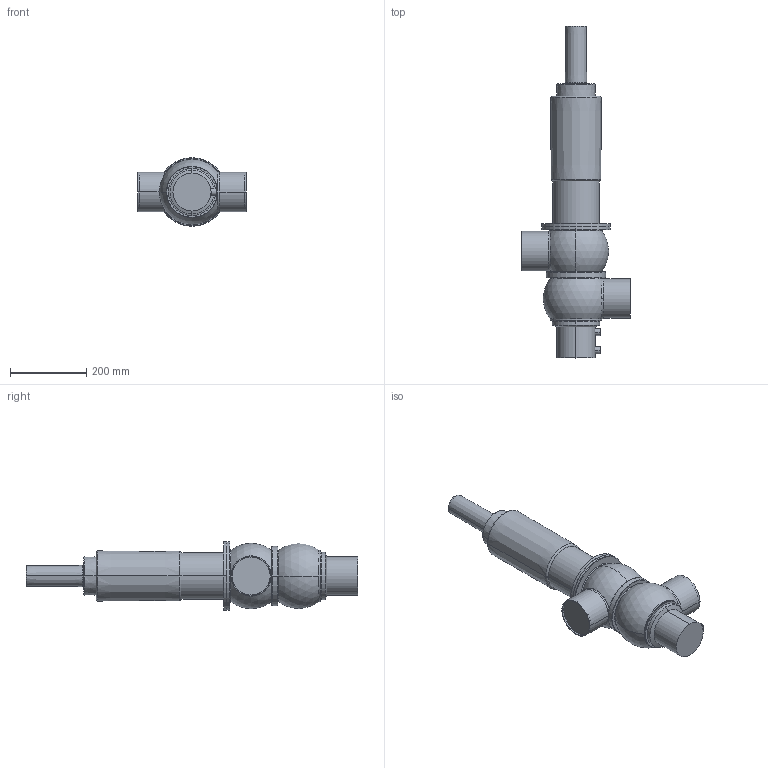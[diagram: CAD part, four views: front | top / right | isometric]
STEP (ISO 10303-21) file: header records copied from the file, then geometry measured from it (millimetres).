
FILE_DESCRIPTION(('Creo Elements/Direct Modeling STEP Export'),'2;1');
FILE_NAME('D41(1-7)-100.stp','2020-02-07T14:30:24',(''),(''),'Creo Elements/Direct Modeling STEP processor for AP214 (Solid Model)','Creo Elements/Direct Modeling 19.0F 14-Feb-2017 (C) Parametric Technology GmbH','');
FILE_SCHEMA(('AUTOMOTIVE_DESIGN { 1 0 10303 214 1 1 1 1 }'));
Length unit declared in the file: millimetre
Products named in the file (5): actuator_D4-125_yoke; D4_Prox._holder.; drain_pipe_92; housing_D41(1-7)-100; D41(1-7)-100_Prox.
Assembly tree (4 placements, depth 2):
  D41(1-7)-100_Prox.
    housing_D41(1-7)-100
    drain_pipe_92
    D4_Prox._holder.
    actuator_D4-125_yoke
Bounding box: 285 x 873 x 180 mm (x, y, z)
Volume: 12038051.3 mm3; surface area: 550404.9 mm2
Topology: 4 solids, 4 shells, 113 faces, 239 edges, 147 vertices
Faces by surface type: cylinder 40, torus 32, plane 24, cone 12, sphere 5
Entity records: 3675 total; most frequent: CARTESIAN_POINT 1296, DIRECTION 482, ORIENTED_EDGE 474, EDGE_CURVE 237, AXIS2_PLACEMENT_3D 215, VERTEX_POINT 147, EDGE_LOOP 128, FACE_OUTER_BOUND 113
